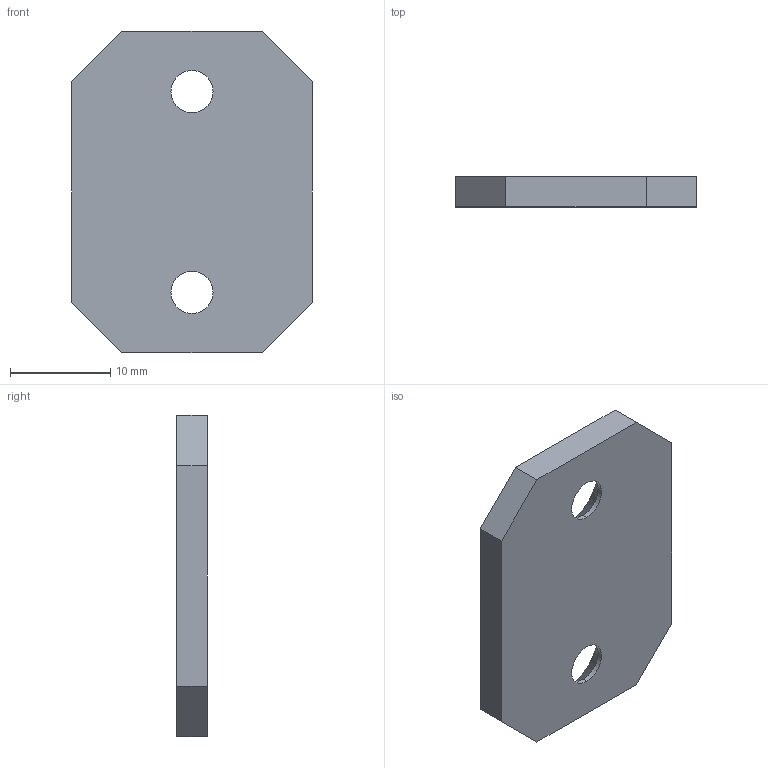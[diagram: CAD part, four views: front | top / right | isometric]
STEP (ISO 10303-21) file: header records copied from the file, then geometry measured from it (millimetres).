
FILE_DESCRIPTION(('CAx-IF Rec.Pracs.---Model Styling and Organization---1.2---2011-12-15','CAx-IF Rec.Pracs.---Geometric and Assembly Validation Properties---4.1---2014-06-16','CAx-IF Rec.Pracs.---PMI Polyline Presentation---2.0---2013-05-24'),'2;1');
FILE_NAME('R5M2WCK.stp','2021-05-05T12:43:05+03:00',(''),(''),'STEP Interface 4.4 by CT CoreTechnologie','3D_Evolution4.4 by CT CoreTechnologie','');
FILE_SCHEMA(('AUTOMOTIVE_DESIGN { 1 0 10303 214 1 1 1 1 }'));
Length unit declared in the file: millimetre
Products named in the file (2): R5M2WCK; RB.1512.00.00.0_-00
Assembly tree (1 placements, depth 2):
  R5M2WCK
    RB.1512.00.00.0_-00
Bounding box: 24 x 3 x 32 mm (x, y, z)
Surface area: 1738.2 mm2 (no closed solid volume)
Topology: 0 solids, 1 shells, 18 faces, 44 edges, 28 vertices
Faces by surface type: plane 10, bspline 4, cylinder 4
Entity records: 649 total; most frequent: CARTESIAN_POINT 144, DIRECTION 88, ORIENTED_EDGE 88, EDGE_CURVE 44, VECTOR 32, LINE 32, AXIS2_PLACEMENT_3D 28, VERTEX_POINT 28
